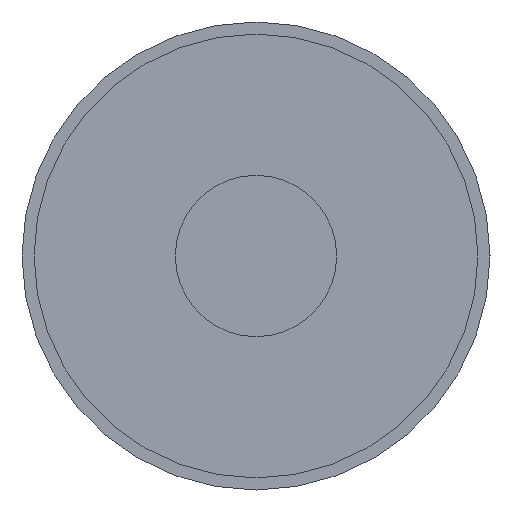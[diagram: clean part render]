
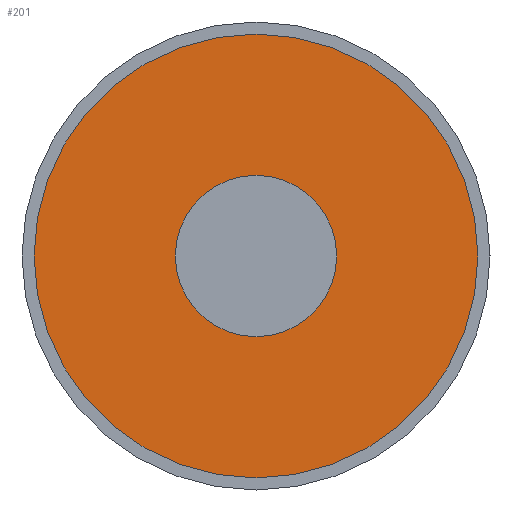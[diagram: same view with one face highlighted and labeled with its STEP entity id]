
A CAD part, left-side view. The second image highlights one B-rep face of the part: STEP entity #201.
In plain terms, the highlighted planar face has unit normal (-1, 0, 0).
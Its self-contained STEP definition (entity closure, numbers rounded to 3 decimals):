
#31=ORIENTED_EDGE('',*,*,#67,.F.);
#32=ORIENTED_EDGE('',*,*,#68,.T.);
#67=EDGE_CURVE('',#85,#85,#103,.T.);
#68=EDGE_CURVE('',#86,#86,#104,.T.);
#85=VERTEX_POINT('',#349);
#86=VERTEX_POINT('',#351);
#103=CIRCLE('',#234,2.75);
#104=CIRCLE('',#235,1.);
#121=EDGE_LOOP('',(#31));
#122=EDGE_LOOP('',(#32));
#157=FACE_BOUND('',#121,.T.);
#158=FACE_BOUND('',#122,.T.);
#193=PLANE('',#233);
#201=ADVANCED_FACE('',(#157,#158),#193,.F.);
#233=AXIS2_PLACEMENT_3D('',#347,#272,#273);
#234=AXIS2_PLACEMENT_3D('',#348,#274,#275);
#235=AXIS2_PLACEMENT_3D('',#350,#276,#277);
#272=DIRECTION('',(1.,0.,0.));
#273=DIRECTION('',(0.,0.,-1.));
#274=DIRECTION('',(1.,0.,0.));
#275=DIRECTION('',(0.,0.,-1.));
#276=DIRECTION('',(1.,0.,0.));
#277=DIRECTION('',(0.,0.,-1.));
#347=CARTESIAN_POINT('',(0.,0.,0.));
#348=CARTESIAN_POINT('',(0.,0.,0.));
#349=CARTESIAN_POINT('',(0.,0.,-2.75));
#350=CARTESIAN_POINT('',(0.,0.,0.));
#351=CARTESIAN_POINT('',(0.,0.,-1.));
